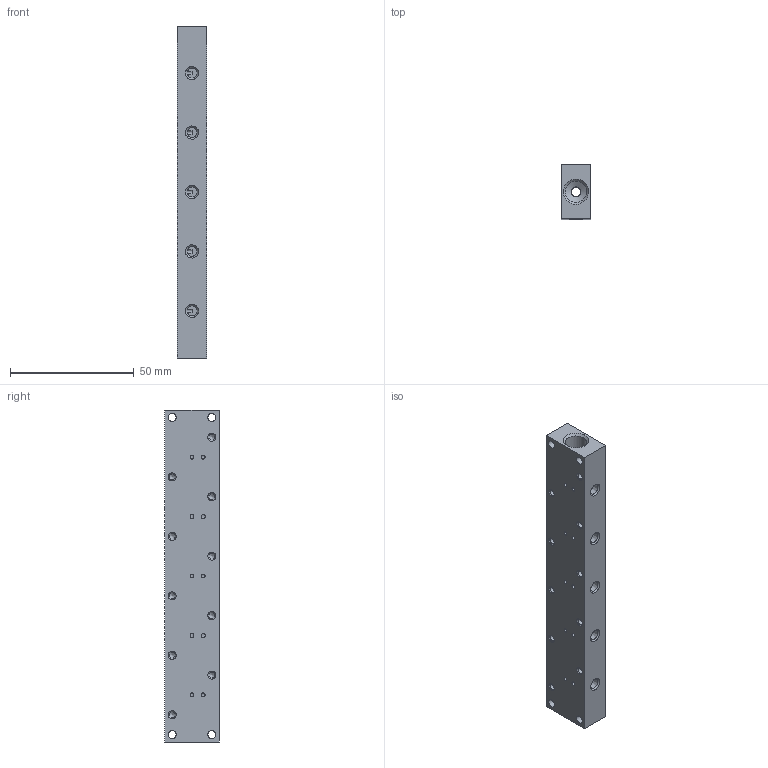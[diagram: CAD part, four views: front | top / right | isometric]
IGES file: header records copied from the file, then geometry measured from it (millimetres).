
Global section: file name: 305_08_05; native system: Autodesk Inventor 2014; preprocessor: unknown; author: A. Manieri; organization: Pneumax S.p.A.; date: 20161004.151258; units: millimetre
Bounding box: 12 x 22 x 134 mm (x, y, z)
Volume: 31356.1 mm3; surface area: 13181.7 mm2
Topology: 1 solids, 1 shells, 77 faces, 260 edges, 185 vertices
Faces by surface type: bspline 77
